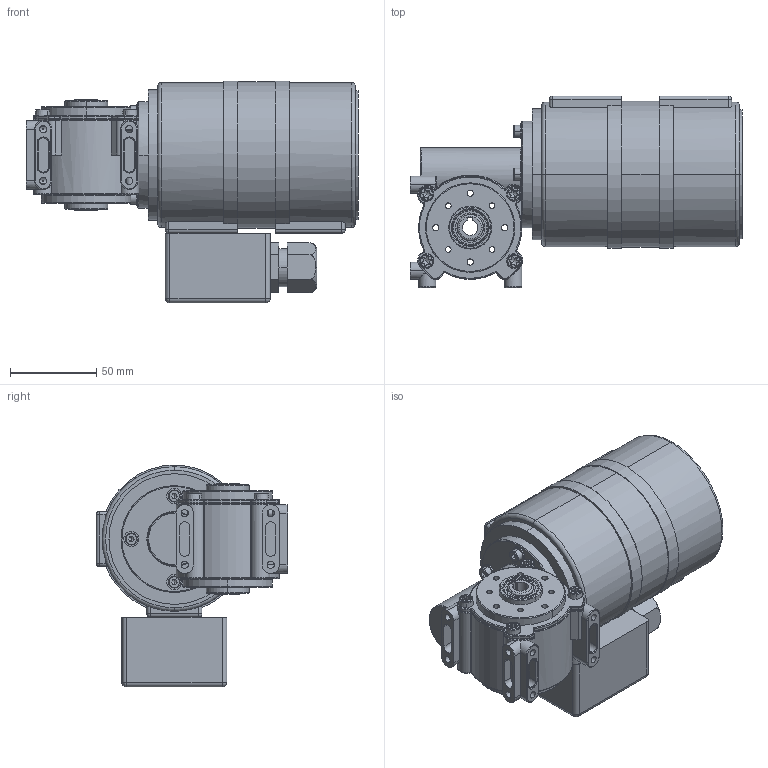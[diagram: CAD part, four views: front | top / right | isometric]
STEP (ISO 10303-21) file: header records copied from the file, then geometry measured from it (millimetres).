
FILE_DESCRIPTION (( 'STEP AP214' ), '1' );
FILE_NAME ('SN18H_45W_1400Upm_C.STEP', '2021-03-17T07:48:39', ( '' ), ( '' ), 'SwSTEP 2.0', 'SolidWorks 2019', '' );
FILE_SCHEMA (( 'AUTOMOTIVE_DESIGN' ));
Length unit declared in the file: millimetre
Products named in the file (1): SN18H_45W_1400Upm_C
Bounding box: 193 x 111.5 x 129 mm (x, y, z)
Surface area: 97280.2 mm2 (no closed solid volume)
Topology: 0 solids, 18 shells, 628 faces, 1717 edges, 1093 vertices
Faces by surface type: cylinder 317, torus 129, plane 128, cone 32, sphere 18, bspline 4
Entity records: 29525 total; most frequent: CARTESIAN_POINT 6592, DIRECTION 3618, ORIENTED_EDGE 3134, EDGE_CURVE 1685, AXIS2_PLACEMENT_3D 1512, VERTEX_POINT 1090, CIRCLE 887, EDGE_LOOP 714
